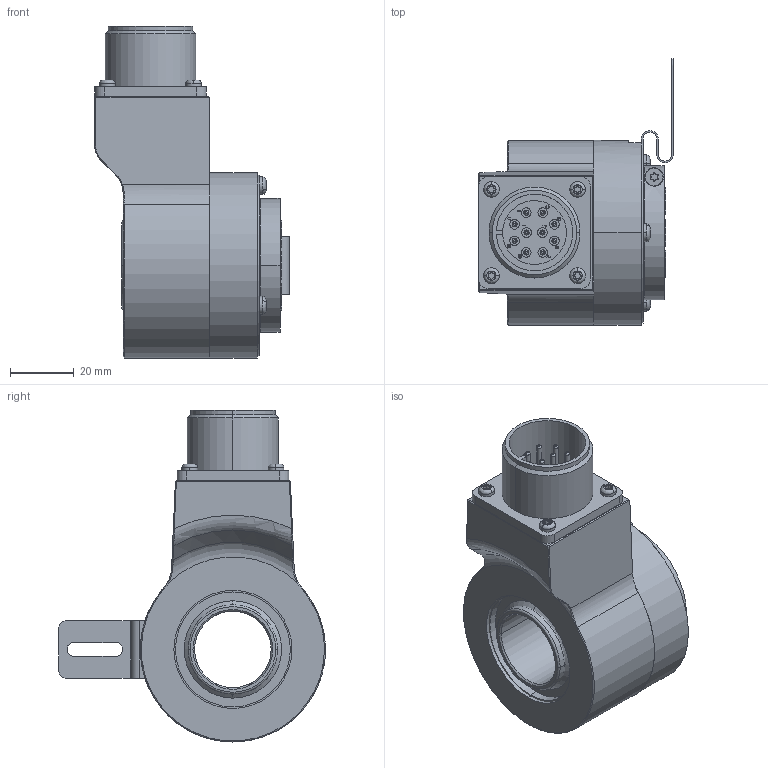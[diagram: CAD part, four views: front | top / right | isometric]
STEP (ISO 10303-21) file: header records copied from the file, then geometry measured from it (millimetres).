
FILE_DESCRIPTION (( 'STEP AP203' ), '1' );
FILE_NAME ('K58I.OXX.XXXXX.XH15524.XXRCE.step', '2025-12-03T08:17:21', ( '' ), ( '' ), 'SwSTEP 2.0', 'SolidWorks 2021', '' );
FILE_SCHEMA (( 'CONFIG_CONTROL_DESIGN' ));
Length unit declared in the file: millimetre
Products named in the file (1): K58I.OXX.XXXXX.XH15524.XXRCE
Bounding box: 61 x 83.61 x 104 mm (x, y, z)
Volume: 139893.3 mm3; surface area: 51287 mm2
Topology: 7 solids, 7 shells, 675 faces, 1700 edges, 1087 vertices
Faces by surface type: cylinder 293, plane 234, cone 61, bspline 61, torus 26
Entity records: 25352 total; most frequent: CARTESIAN_POINT 9130, ORIENTED_EDGE 3376, DIRECTION 3346, EDGE_CURVE 1688, AXIS2_PLACEMENT_3D 1262, VERTEX_POINT 1087, LINE 822, VECTOR 822
